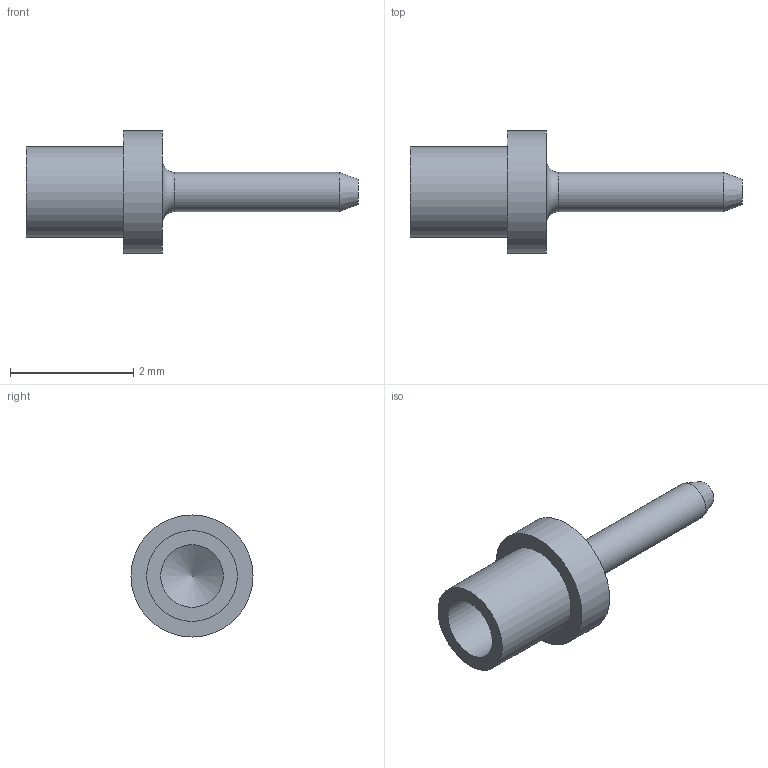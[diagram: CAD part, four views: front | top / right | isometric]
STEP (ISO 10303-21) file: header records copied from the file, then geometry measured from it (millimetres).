
FILE_DESCRIPTION(/* description */ (''),/* implementation_level */ '2;1');
FILE_NAME(/* name */ 'Z:\STEP folder\460339301.ipt.stp',/* time_stamp */ '2016-12-21T13:06:49+00:00',/* author */ ('Paul Karlsons'),/* organization */ (''),/* preprocessor_version */ 'ST-DEVELOPER v15.2',/* originating_system */ 'Autodesk Inventor 2014',/* authorisation */ '');
FILE_SCHEMA (('AUTOMOTIVE_DESIGN { 1 0 10303 214 3 1 1 }'));
Length unit declared in the file: millimetre
Products named in the file (1): 460339301
Bounding box: 5.38 x 1.98 x 1.98 mm (x, y, z)
Volume: 4.7 mm3; surface area: 26.7 mm2
Topology: 1 solids, 1 shells, 11 faces, 18 edges, 11 vertices
Faces by surface type: cylinder 4, plane 4, cone 2, torus 1
Full cylindrical faces by diameter (mm): 0.635 x1, 1.016 x1, 1.473 x1, 1.98 x1
Entity records: 235 total; most frequent: DIRECTION 44, CARTESIAN_POINT 32, AXIS2_PLACEMENT_3D 22, EDGE_LOOP 20, ORIENTED_EDGE 20, ADVANCED_FACE 11, FACE_BOUND 10, FACE_OUTER_BOUND 10
